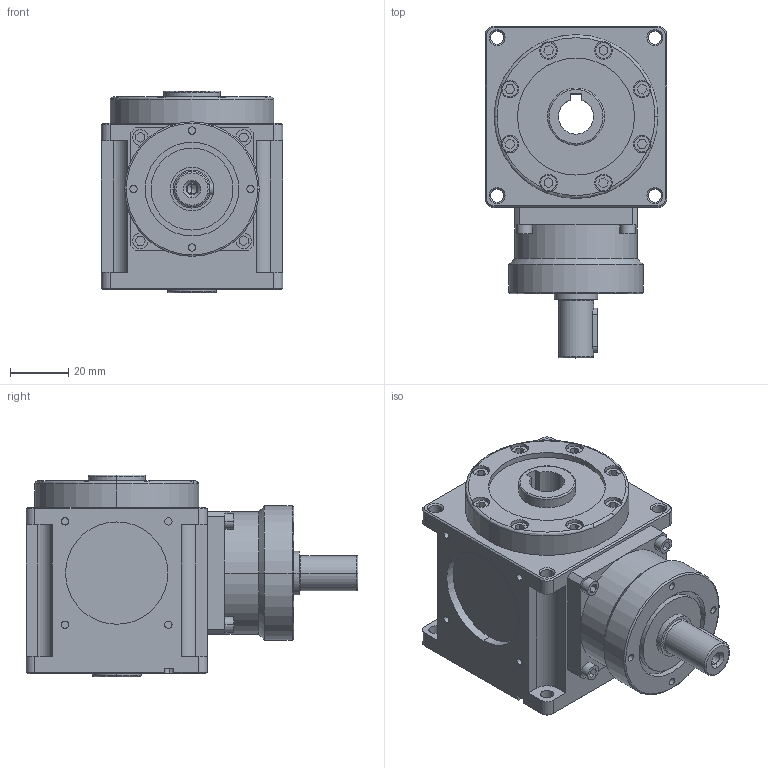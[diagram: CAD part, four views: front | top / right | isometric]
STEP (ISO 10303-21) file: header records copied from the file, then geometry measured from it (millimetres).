
FILE_DESCRIPTION (( 'STEP AP214' ), '1' );
FILE_NAME ('LMY062A-002-CR.STEP', '2025-05-19T06:05:56', ( '微软用户' ), ( '微软中国' ), 'SwSTEP 2.0', 'SolidWorks 2024', '' );
FILE_SCHEMA (( 'AUTOMOTIVE_DESIGN' ));
Length unit declared in the file: millimetre
Products named in the file (1): LMY062A-002-CR
Bounding box: 62 x 113.5 x 69 mm (x, y, z)
Volume: 251682.1 mm3; surface area: 36679.2 mm2
Topology: 1 solids, 1 shells, 378 faces, 909 edges, 585 vertices
Faces by surface type: plane 189, cylinder 145, cone 30, torus 14
Entity records: 11228 total; most frequent: CARTESIAN_POINT 2059, DIRECTION 2007, ORIENTED_EDGE 1814, EDGE_CURVE 907, AXIS2_PLACEMENT_3D 741, VERTEX_POINT 585, LINE 525, VECTOR 525
